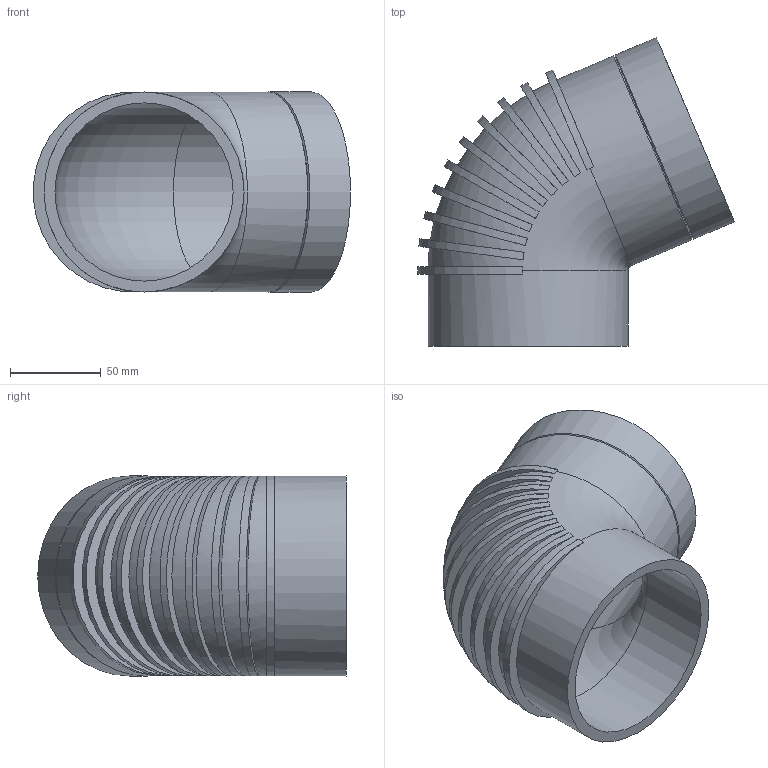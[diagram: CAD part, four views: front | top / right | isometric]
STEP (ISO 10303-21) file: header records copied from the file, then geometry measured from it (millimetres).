
FILE_DESCRIPTION(/* description */ (''),/* implementation_level */ '2;1');
FILE_NAME(/* name */ 'Z:\Geberit\Export\NewStep\Bogen_Ipart\stp\310670.stp',/* time_stamp */ '2014-04-03T16:43:13+02:00',/* author */ ('Marco'),/* organization */ (''),/* preprocessor_version */ 'ST-DEVELOPER v15.2',/* originating_system */ 'Autodesk Inventor 2014',/* authorisation */ '');
FILE_SCHEMA (('AUTOMOTIVE_DESIGN { 1 0 10303 214 3 1 1 }'));
Length unit declared in the file: millimetre
Products named in the file (1): 310670
Bounding box: 174.34 x 169.7 x 110 mm (x, y, z)
Volume: 362809.1 mm3; surface area: 129859.5 mm2
Topology: 1 solids, 1 shells, 41 faces, 114 edges, 75 vertices
Faces by surface type: plane 22, cylinder 15, cone 2, torus 2
Full cylindrical faces by diameter (mm): 98 x2, 110 x3
Entity records: 1834 total; most frequent: CARTESIAN_POINT 890, ORIENTED_EDGE 186, DIRECTION 154, EDGE_CURVE 93, AXIS2_PLACEMENT_3D 75, VERTEX_POINT 71, EDGE_LOOP 60, B_SPLINE_CURVE_WITH_KNOTS 56
